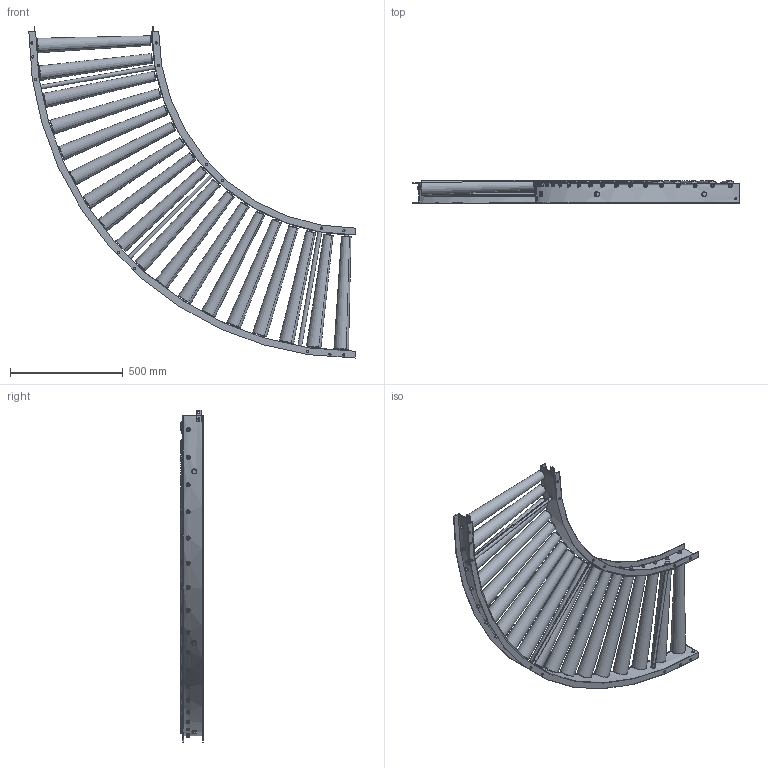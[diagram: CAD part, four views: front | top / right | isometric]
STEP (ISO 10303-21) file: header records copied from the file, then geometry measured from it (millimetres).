
FILE_DESCRIPTION (( 'STEP AP203' ), '1' );
FILE_NAME ('R-TC900A_C.step', '2024-03-15T02:36:00', ( '' ), ( '' ), 'SwSTEP 2.0', 'SolidWorks 2023', '' );
FILE_SCHEMA (( 'CONFIG_CONTROL_DESIGN' ));
Length unit declared in the file: millimetre
Products named in the file (1): R-TC900A_C
Bounding box: 1445 x 100.17 x 1470.1 mm (x, y, z)
Volume: 22046407.3 mm3; surface area: 3847781.5 mm2
Topology: 55 solids, 55 shells, 820 faces, 1896 edges, 1228 vertices
Faces by surface type: cylinder 370, plane 306, cone 72, torus 72
Entity records: 30571 total; most frequent: CARTESIAN_POINT 11315, DIRECTION 4102, ORIENTED_EDGE 3792, EDGE_CURVE 1896, AXIS2_PLACEMENT_3D 1701, VERTEX_POINT 1228, EDGE_LOOP 1068, CIRCLE 880
